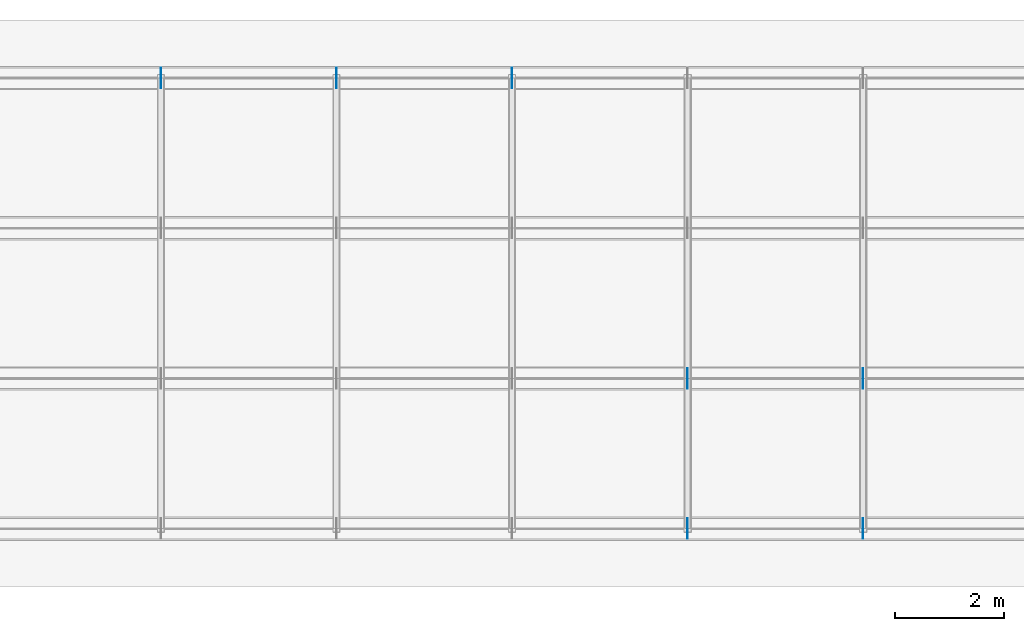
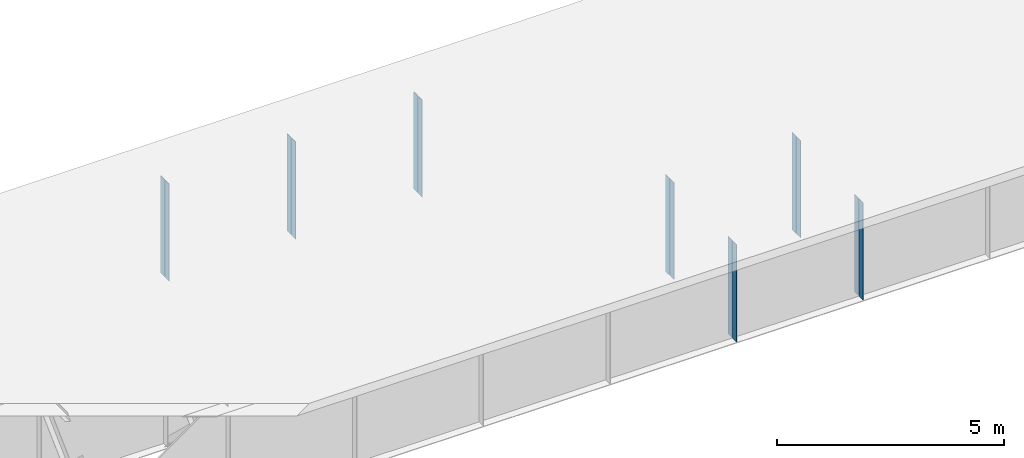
# One storey, part 12 of 13: 14 plates.
"""IFC4 building model written with IfcOpenShell, lengths in metres."""

from ifc_helpers import new_model, si_unit, frame, origin, origin_with_axes, origin_2d_with_axis, place, context, subcontext, project, spatial, rectangle, extrude, element, save


model = new_model("IFC4")

# Units and contexts
model_context = context("Model", 3, precision=1e-05, world=origin())
body_context = subcontext(model_context, "Body", "Model", "MODEL_VIEW")
ifc_project = project(units=[si_unit("LENGTHUNIT", "METRE"), si_unit("AREAUNIT", "SQUARE_METRE"), si_unit("VOLUMEUNIT", "CUBIC_METRE"), si_unit("PLANEANGLEUNIT", "RADIAN")], contexts=[model_context])

# Site, building, storey
site_placement = place(None, origin_with_axes())
site = spatial("IfcSite", under=ifc_project, at=site_placement, Name="Default Site")
building_placement = place(site_placement, origin_with_axes())
building = spatial("IfcBuilding", under=site, at=building_placement, Name="Bridge Structure")
storey_placement = place(building_placement, origin_with_axes())
storey = spatial("IfcBuildingStorey", under=building, at=storey_placement, Name="Superstructure")

# Plates
for number, where, z_axis, x_axis, name in (
    (1, (32.14, -4.02575, -1.305), (0.0, 0.0, 1.0), (1.0, 0.0, 0.0), "Intermediate Stiffener 1"),
    (2, (32.14, -4.2242500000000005, -1.305), (0.0, 0.0, 1.0), (1.0, 0.0, 0.0), "Intermediate Stiffener 1"),
    (3, (35.354, -4.02575, -1.305), (0.0, 0.0, 1.0), (1.0, 0.0, 0.0), "Intermediate Stiffener 1"),
    (4, (35.354, -4.2242500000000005, -1.305), (0.0, 0.0, 1.0), (1.0, 0.0, 0.0), "Intermediate Stiffener 1"),
    (5, (32.14, -1.27575, -1.305), (0.0, 0.0, 1.0), (1.0, 0.0, 0.0), "Intermediate Stiffener 2"),
    (6, (32.14, -1.47425, -1.305), (0.0, 0.0, 1.0), (1.0, 0.0, 0.0), "Intermediate Stiffener 2"),
    (7, (35.354, -1.27575, -1.305), (0.0, 0.0, 1.0), (1.0, 0.0, 0.0), "Intermediate Stiffener 2"),
    (8, (35.354, -1.47425, -1.305), (0.0, 0.0, 1.0), (1.0, 0.0, 0.0), "Intermediate Stiffener 2"),
    (9, (22.498, 4.2242500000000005, -1.305), (0.0, 0.0, 1.0), (1.0, 0.0, 0.0), "Intermediate Stiffener 4"),
    (10, (22.498, 4.02575, -1.305), (0.0, 0.0, 1.0), (1.0, 0.0, 0.0), "Intermediate Stiffener 4"),
    (11, (25.712, 4.2242500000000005, -1.305), (0.0, 0.0, 1.0), (1.0, 0.0, 0.0), "Intermediate Stiffener 4"),
    (12, (25.712, 4.02575, -1.305), (0.0, 0.0, 1.0), (1.0, 0.0, 0.0), "Intermediate Stiffener 4"),
    (13, (28.926000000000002, 4.2242500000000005, -1.305), (0.0, 0.0, 1.0), (1.0, 0.0, 0.0), "Intermediate Stiffener 4"),
    (14, (28.926000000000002, 4.02575, -1.305), (0.0, 0.0, 1.0), (1.0, 0.0, 0.0), "Intermediate Stiffener 4"),
):
    element("IfcPlate", number, at=place(storey_placement, frame(where, z_axis=z_axis, x_axis=x_axis)), inside=storey, Name=name, context=body_context, shape_type="SweptSolid", body=[
        extrude(rectangle(XDim=0.012, YDim=0.1765, at=origin_2d_with_axis()), origin_with_axes(), (0.0, 0.0, 1.0), 2.61),
    ])

save(model, "model.ifc")
